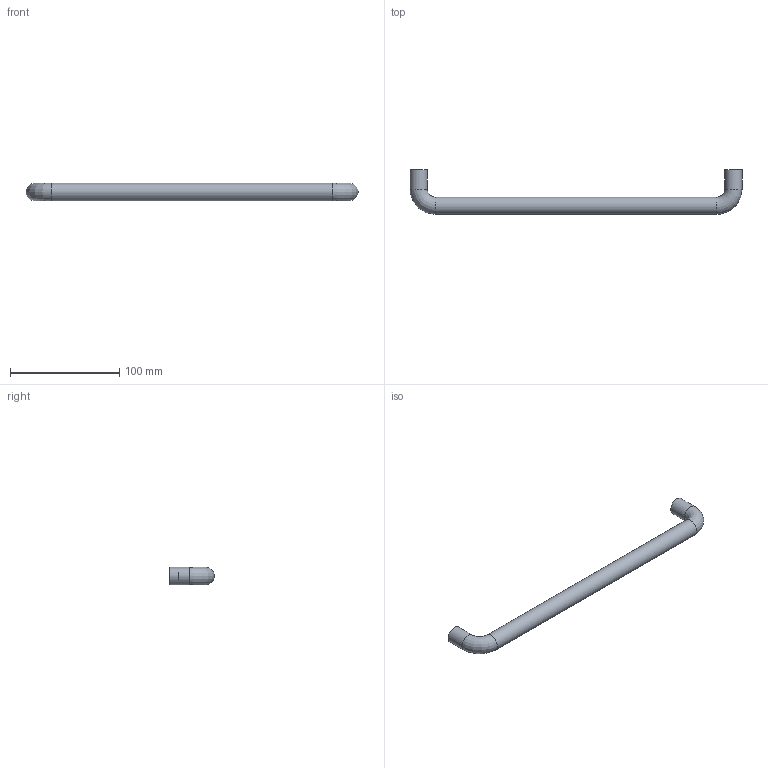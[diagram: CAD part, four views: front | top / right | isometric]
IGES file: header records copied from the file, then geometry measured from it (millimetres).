
Start section: Data from Parasolid IGES Translator 15.0.47, Copyright(c) 2006 Siemens P LM Software. All Rights Reserved.
Global section: file name: 9113303.igs; native system:  By UGS Corp.; preprocessor: XPlus GENERIC/IGES 3.0; author: Noname; organization: Noname; date: 20140122.155257; units: millimetre
Bounding box: 303.8 x 40.8 x 15.8 mm (x, y, z)
Surface area: 31851.3 mm2 (no closed solid volume)
Topology: 0 solids, 0 shells, 16 faces, 72 edges, 68 vertices
Faces by surface type: revolution 12, extrusion 4
